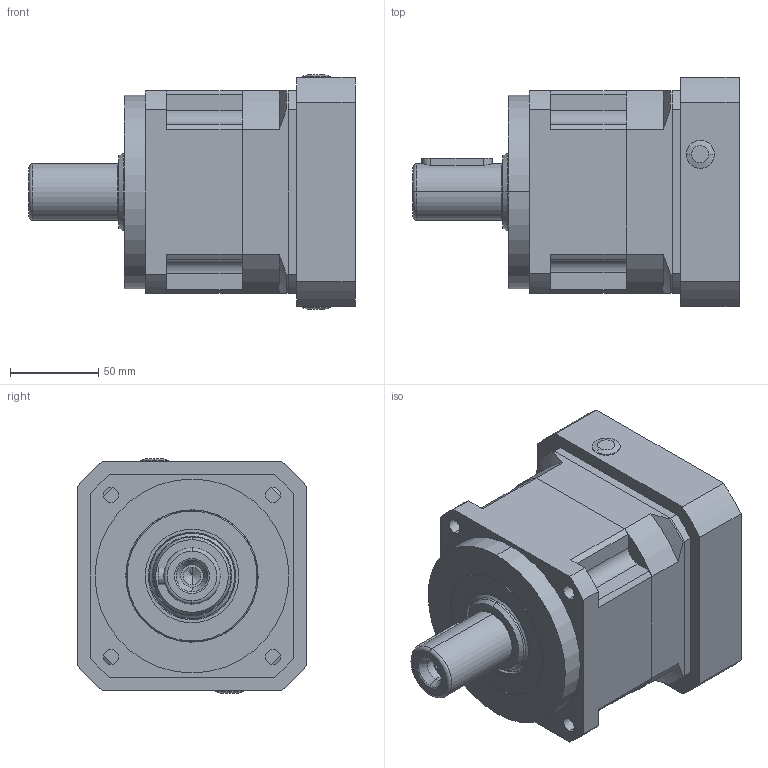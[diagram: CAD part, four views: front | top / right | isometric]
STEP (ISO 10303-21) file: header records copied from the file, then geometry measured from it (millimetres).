
FILE_DESCRIPTION (( 'STEP AP203' ), '1' );
FILE_NAME ('115-L1-22-110-145-M8-͹̨12.STEP', '2020-06-11T08:24:11', ( 'ylmfeng' ), ( 'ylmfeng.com' ), 'SwSTEP 2.0', 'SolidWorks 2014', '' );
FILE_SCHEMA (( 'CONFIG_CONTROL_DESIGN' ));
Length unit declared in the file: millimetre
Products named in the file (1): 115-L1-22-110-145-M8-͹̨12
Bounding box: 185 x 130 x 133 mm (x, y, z)
Volume: 1556959.4 mm3; surface area: 209559.5 mm2
Topology: 19 solids, 19 shells, 537 faces, 1314 edges, 838 vertices
Faces by surface type: plane 217, cylinder 199, cone 67, bspline 26, torus 24, sphere 4
Entity records: 18880 total; most frequent: CARTESIAN_POINT 6189, DIRECTION 2659, ORIENTED_EDGE 2604, EDGE_CURVE 1302, AXIS2_PLACEMENT_3D 1016, VERTEX_POINT 838, VECTOR 627, LINE 627
